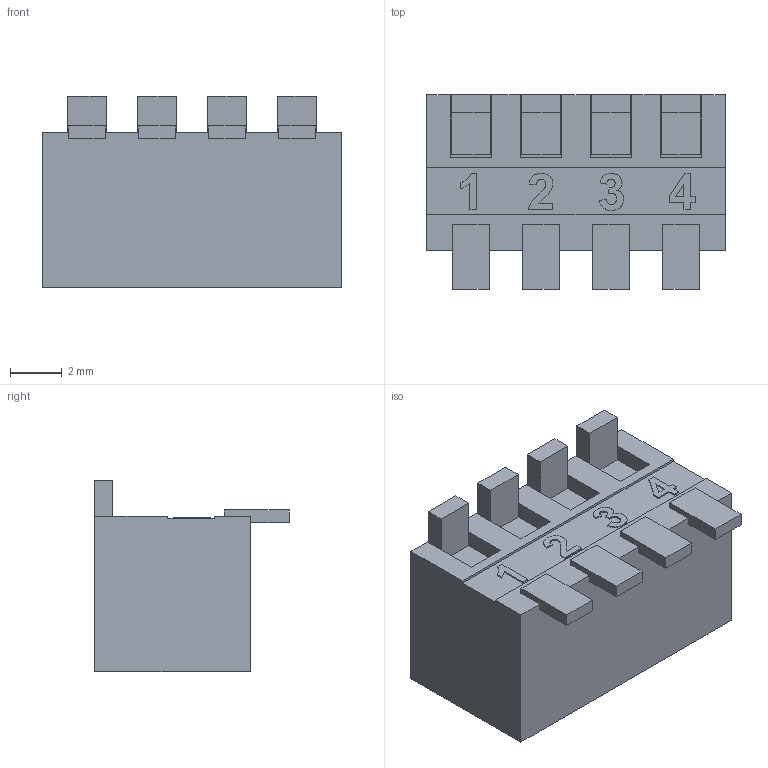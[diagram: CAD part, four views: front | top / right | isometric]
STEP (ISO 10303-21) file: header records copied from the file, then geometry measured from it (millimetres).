
FILE_DESCRIPTION(/* description */ ('','CAx-IF Rec.Pracs.---Representation and Presentation of Product Manufacturing Information (PMI)---4.0---2014-10-13'),/* implementation_level */ '2;1');
FILE_NAME(/* name */ 'G:\Alle CAD Daten\CAMTEC_2021_Pack and Go\PSU CPS-i3000 - CPS-i2000\DIP Schalter.stp',/* time_stamp */ '2020-09-15T17:14:05+02:00',/* author */ ('rryba'),/* organization */ (''),/* preprocessor_version */ 'ST-DEVELOPER v18.1',/* originating_system */ 'Autodesk Inventor 2021',/* authorisation */ '');
FILE_SCHEMA (('AP242_MANAGED_MODEL_BASED_3D_ENGINEERING_MIM_LF { 1 0 10303 442 1 1 4 }'));
Length unit declared in the file: millimetre
Products named in the file (1): DIP Schalter
Bounding box: 11.5 x 7.5 x 7.4 mm (x, y, z)
Volume: 417.1 mm3; surface area: 503.7 mm2
Topology: 9 solids, 9 shells, 138 faces, 395 edges, 330 vertices
Faces by surface type: plane 113, bspline 25
Entity records: 4563 total; most frequent: CARTESIAN_POINT 1119, ORIENTED_EDGE 690, DIRECTION 523, EDGE_CURVE 345, LINE 295, VECTOR 295, VERTEX_POINT 230, STYLED_ITEM 163
